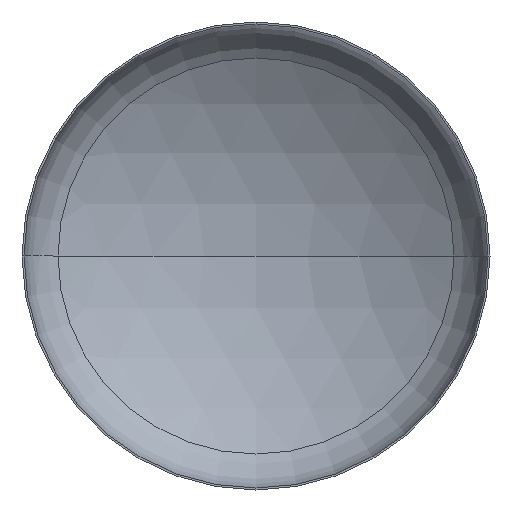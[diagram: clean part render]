
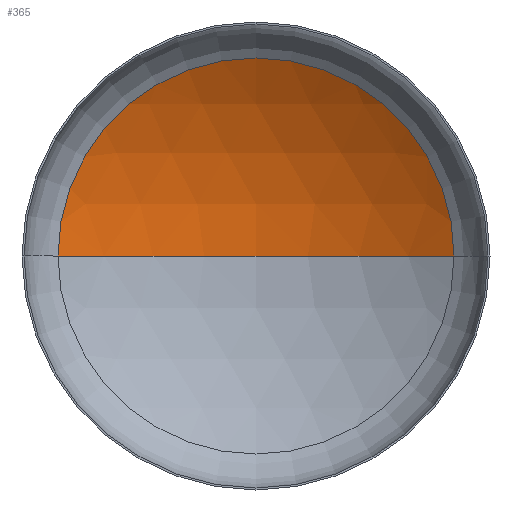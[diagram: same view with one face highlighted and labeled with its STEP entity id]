
A CAD part, front view. The second image highlights one B-rep face of the part: STEP entity #365.
In plain terms, the highlighted spherical face has radius 6000 mm.
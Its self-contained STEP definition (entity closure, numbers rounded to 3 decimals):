
#3 = ORIENTED_EDGE ( 'NONE', *, *, #219, .T. ) ;
#5 = VERTEX_POINT ( 'NONE', #272 ) ;
#7 = AXIS2_PLACEMENT_3D ( 'NONE', #140, #50, #48 ) ;
#25 = EDGE_LOOP ( 'NONE', ( #39, #3, #367 ) ) ;
#39 = ORIENTED_EDGE ( 'NONE', *, *, #235, .F. ) ;
#48 = DIRECTION ( 'NONE',  ( 1., 0., 0. ) ) ;
#50 = DIRECTION ( 'NONE',  ( 0., -1., 0. ) ) ;
#64 = VERTEX_POINT ( 'NONE', #319 ) ;
#72 = DIRECTION ( 'NONE',  ( 1., 0., 0. ) ) ;
#75 = DIRECTION ( 'NONE',  ( 0., 0., 1. ) ) ;
#81 = CARTESIAN_POINT ( 'NONE',  ( 0., -4011.576, 0. ) ) ;
#90 = VERTEX_POINT ( 'NONE', #333 ) ;
#120 = CARTESIAN_POINT ( 'NONE',  ( 0., -4011.576, 0. ) ) ;
#123 = DIRECTION ( 'NONE',  ( 0., 0., -1. ) ) ;
#140 = CARTESIAN_POINT ( 'NONE',  ( 0., 1080.159, 0. ) ) ;
#150 = AXIS2_PLACEMENT_3D ( 'NONE', #185, #190, #251 ) ;
#159 = FACE_OUTER_BOUND ( 'NONE', #25, .T. ) ;
#183 = EDGE_CURVE ( 'NONE', #90, #5, #214, .T. ) ;
#185 = CARTESIAN_POINT ( 'NONE',  ( 0., -4011.576, 0. ) ) ;
#190 = DIRECTION ( 'NONE',  ( 0., 0., -1. ) ) ;
#211 = AXIS2_PLACEMENT_3D ( 'NONE', #81, #75, #72 ) ;
#214 = CIRCLE ( 'NONE', #7, 3173.994 ) ;
#219 = EDGE_CURVE ( 'NONE', #64, #90, #338, .T. ) ;
#224 = SPHERICAL_SURFACE ( 'NONE', #390, 6000. ) ;
#235 = EDGE_CURVE ( 'NONE', #64, #5, #385, .T. ) ;
#241 = DIRECTION ( 'NONE',  ( -1., 0., 0. ) ) ;
#251 = DIRECTION ( 'NONE',  ( -1., 0., 0. ) ) ;
#272 = CARTESIAN_POINT ( 'NONE',  ( -3173.994, 1080.159, 0. ) ) ;
#319 = CARTESIAN_POINT ( 'NONE',  ( 0., 1988.424, 0. ) ) ;
#333 = CARTESIAN_POINT ( 'NONE',  ( 3173.994, 1080.159, 0. ) ) ;
#338 = CIRCLE ( 'NONE', #150, 6000. ) ;
#365 = ADVANCED_FACE ( 'NONE', ( #159 ), #224, .F. ) ;
#367 = ORIENTED_EDGE ( 'NONE', *, *, #183, .T. ) ;
#385 = CIRCLE ( 'NONE', #211, 6000. ) ;
#390 = AXIS2_PLACEMENT_3D ( 'NONE', #120, #123, #241 ) ;
